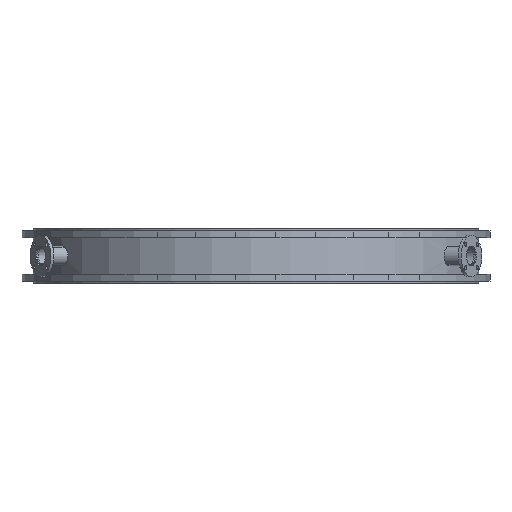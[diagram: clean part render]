
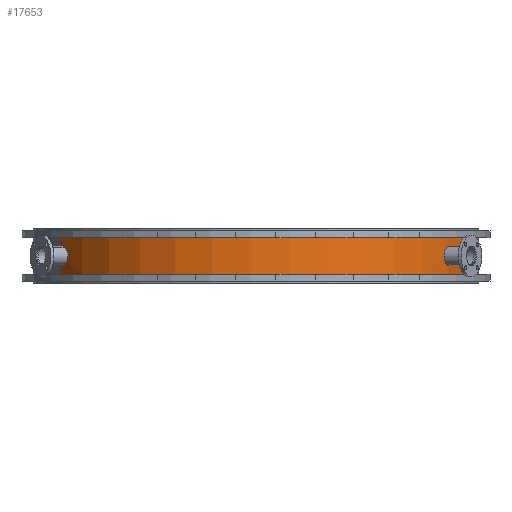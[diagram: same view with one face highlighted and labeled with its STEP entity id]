
A CAD part, left-side view. The second image highlights one B-rep face of the part: STEP entity #17653.
In plain terms, the highlighted cylindrical face has radius 1025 mm (diameter 2050 mm), a partial arc.
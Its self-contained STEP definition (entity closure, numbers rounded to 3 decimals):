
#161=CARTESIAN_POINT('Vertex',(491.411,-899.522,-85.)) ;
#163=CARTESIAN_POINT('Vertex',(-491.411,899.522,-85.)) ;
#166=CARTESIAN_POINT('Axis2P3D Location',(0.,0.,-85.)) ;
#2821=CARTESIAN_POINT('Axis2P3D Location',(0.,0.,0.)) ;
#17080=CARTESIAN_POINT('Axis2P3D Location',(0.,0.,85.)) ;
#17084=CARTESIAN_POINT('Vertex',(-491.411,899.522,85.)) ;
#17086=CARTESIAN_POINT('Vertex',(491.411,-899.522,85.)) ;
#17547=CARTESIAN_POINT('Line Origine',(-491.411,899.522,-20.)) ;
#17551=CARTESIAN_POINT('Vertex',(-491.411,899.522,-37.294)) ;
#17554=CARTESIAN_POINT('Line Origine',(491.411,-899.522,-20.)) ;
#17559=CARTESIAN_POINT('Line Origine',(-491.411,899.522,-20.)) ;
#17563=CARTESIAN_POINT('Vertex',(-491.411,899.522,37.294)) ;
#17567=CARTESIAN_POINT('Control Point',(-550.513,864.616,0.)) ;
#17568=CARTESIAN_POINT('Control Point',(-550.513,864.616,6.969)) ;
#17569=CARTESIAN_POINT('Control Point',(-549.36,865.35,13.938)) ;
#17570=CARTESIAN_POINT('Control Point',(-547.052,866.82,20.549)) ;
#17571=CARTESIAN_POINT('Control Point',(-542.03,869.981,29.398)) ;
#17572=CARTESIAN_POINT('Control Point',(-535.124,874.231,36.078)) ;
#17573=CARTESIAN_POINT('Control Point',(-532.636,875.75,38.033)) ;
#17574=CARTESIAN_POINT('Control Point',(-527.355,878.947,41.345)) ;
#17575=CARTESIAN_POINT('Control Point',(-521.598,882.371,43.396)) ;
#17576=CARTESIAN_POINT('Control Point',(-518.635,884.116,44.089)) ;
#17577=CARTESIAN_POINT('Control Point',(-511.186,888.46,44.958)) ;
#17578=CARTESIAN_POINT('Control Point',(-503.687,892.728,43.735)) ;
#17579=CARTESIAN_POINT('Control Point',(-499.325,895.173,42.263)) ;
#17580=CARTESIAN_POINT('Control Point',(-495.196,897.454,40.09)) ;
#17581=CARTESIAN_POINT('Control Point',(-491.411,899.522,37.294)) ;
#17582=CARTESIAN_POINT('Vertex',(-550.513,864.616,0.)) ;
#17586=CARTESIAN_POINT('Control Point',(-491.411,899.522,-37.294)) ;
#17587=CARTESIAN_POINT('Control Point',(-495.16,897.474,-40.063)) ;
#17588=CARTESIAN_POINT('Control Point',(-499.245,895.217,-42.221)) ;
#17589=CARTESIAN_POINT('Control Point',(-503.561,892.799,-43.693)) ;
#17590=CARTESIAN_POINT('Control Point',(-511.012,888.56,-44.944)) ;
#17591=CARTESIAN_POINT('Control Point',(-518.422,884.241,-44.128)) ;
#17592=CARTESIAN_POINT('Control Point',(-521.389,882.494,-43.454)) ;
#17593=CARTESIAN_POINT('Control Point',(-530.041,877.352,-40.434)) ;
#17594=CARTESIAN_POINT('Control Point',(-537.633,872.711,-34.57)) ;
#17595=CARTESIAN_POINT('Control Point',(-541.949,870.024,-29.53)) ;
#17596=CARTESIAN_POINT('Control Point',(-547.002,866.847,-20.642)) ;
#17597=CARTESIAN_POINT('Control Point',(-549.624,865.182,-10.552)) ;
#17598=CARTESIAN_POINT('Control Point',(-550.216,864.805,-7.065)) ;
#17599=CARTESIAN_POINT('Control Point',(-550.513,864.616,-3.533)) ;
#17600=CARTESIAN_POINT('Control Point',(-550.513,864.616,0.)) ;
#17612=CARTESIAN_POINT('Control Point',(-550.513,-864.616,0.)) ;
#17613=CARTESIAN_POINT('Control Point',(-550.513,-864.616,-6.969)) ;
#17614=CARTESIAN_POINT('Control Point',(-549.36,-865.35,-13.938)) ;
#17615=CARTESIAN_POINT('Control Point',(-547.052,-866.82,-20.549)) ;
#17616=CARTESIAN_POINT('Control Point',(-540.357,-871.035,-32.348)) ;
#17617=CARTESIAN_POINT('Control Point',(-530.31,-877.184,-40.29)) ;
#17618=CARTESIAN_POINT('Control Point',(-524.649,-880.591,-43.044)) ;
#17619=CARTESIAN_POINT('Control Point',(-512.641,-887.663,-45.817)) ;
#17620=CARTESIAN_POINT('Control Point',(-500.5,-894.538,-43.122)) ;
#17621=CARTESIAN_POINT('Control Point',(-494.707,-897.745,-40.406)) ;
#17622=CARTESIAN_POINT('Control Point',(-484.284,-903.414,-32.502)) ;
#17623=CARTESIAN_POINT('Control Point',(-477.215,-907.144,-20.692)) ;
#17624=CARTESIAN_POINT('Control Point',(-474.753,-908.425,-14.039)) ;
#17625=CARTESIAN_POINT('Control Point',(-473.523,-909.066,-7.019)) ;
#17626=CARTESIAN_POINT('Control Point',(-473.523,-909.066,0.)) ;
#17627=CARTESIAN_POINT('Vertex',(-550.513,-864.616,0.)) ;
#17629=CARTESIAN_POINT('Vertex',(-473.523,-909.066,0.)) ;
#17633=CARTESIAN_POINT('Control Point',(-473.523,-909.066,0.)) ;
#17634=CARTESIAN_POINT('Control Point',(-473.523,-909.066,6.969)) ;
#17635=CARTESIAN_POINT('Control Point',(-474.735,-908.434,13.938)) ;
#17636=CARTESIAN_POINT('Control Point',(-477.162,-907.171,20.549)) ;
#17637=CARTESIAN_POINT('Control Point',(-484.16,-903.48,32.348)) ;
#17638=CARTESIAN_POINT('Control Point',(-494.509,-897.854,40.29)) ;
#17639=CARTESIAN_POINT('Control Point',(-500.29,-894.655,43.044)) ;
#17640=CARTESIAN_POINT('Control Point',(-512.419,-887.792,45.817)) ;
#17641=CARTESIAN_POINT('Control Point',(-524.442,-880.715,43.122)) ;
#17642=CARTESIAN_POINT('Control Point',(-530.116,-877.302,40.406)) ;
#17643=CARTESIAN_POINT('Control Point',(-540.238,-871.109,32.502)) ;
#17644=CARTESIAN_POINT('Control Point',(-547.002,-866.852,20.692)) ;
#17645=CARTESIAN_POINT('Control Point',(-549.343,-865.361,14.039)) ;
#17646=CARTESIAN_POINT('Control Point',(-550.513,-864.616,7.019)) ;
#17647=CARTESIAN_POINT('Control Point',(-550.513,-864.616,0.)) ;
#167=DIRECTION('Axis2P3D Direction',(0.,0.,1.)) ;
#2822=DIRECTION('Axis2P3D Direction',(0.,0.,1.)) ;
#2823=DIRECTION('Axis2P3D XDirection',(0.479,-0.878,0.)) ;
#17081=DIRECTION('Axis2P3D Direction',(0.,0.,1.)) ;
#17548=DIRECTION('Vector Direction',(0.,0.,1.)) ;
#17555=DIRECTION('Vector Direction',(0.,0.,1.)) ;
#17560=DIRECTION('Vector Direction',(0.,0.,1.)) ;
#168=AXIS2_PLACEMENT_3D('Circle Axis2P3D',#166,#167,$) ;
#2824=AXIS2_PLACEMENT_3D('Cylinder Axis2P3D',#2821,#2822,#2823) ;
#17082=AXIS2_PLACEMENT_3D('Circle Axis2P3D',#17080,#17081,$) ;
#17603=ORIENTED_EDGE('',*,*,#17553,.T.) ;
#17604=ORIENTED_EDGE('',*,*,#170,.T.) ;
#17605=ORIENTED_EDGE('',*,*,#17558,.F.) ;
#17606=ORIENTED_EDGE('',*,*,#17088,.F.) ;
#17607=ORIENTED_EDGE('',*,*,#17565,.T.) ;
#17608=ORIENTED_EDGE('',*,*,#17584,.F.) ;
#17609=ORIENTED_EDGE('',*,*,#17601,.F.) ;
#17650=ORIENTED_EDGE('',*,*,#17631,.F.) ;
#17651=ORIENTED_EDGE('',*,*,#17648,.F.) ;
#17652=FACE_BOUND('',#17649,.T.) ;
#17549=VECTOR('Line Direction',#17548,1.) ;
#17556=VECTOR('Line Direction',#17555,1.) ;
#17561=VECTOR('Line Direction',#17560,1.) ;
#17653=ADVANCED_FACE('corpo principale',(#17610,#17652),#2825,.T.) ;
#17566=B_SPLINE_CURVE_WITH_KNOTS('',5,(#17567,#17568,#17569,#17570,#17571,#17572,#17573,#17574,#17575,#17576,#17577,#17578,#17579,#17580,#17581),.UNSPECIFIED.,.F.,.U.,(6,3,3,3,6),(0.,49.279,73.935,98.579,134.924),.UNSPECIFIED.) ;
#17585=B_SPLINE_CURVE_WITH_KNOTS('',5,(#17586,#17587,#17588,#17589,#17590,#17591,#17592,#17593,#17594,#17595,#17596,#17597,#17598,#17599,#17600),.UNSPECIFIED.,.F.,.U.,(6,3,3,3,6),(62.584,98.579,123.22,172.528,197.508),.UNSPECIFIED.) ;
#17611=B_SPLINE_CURVE_WITH_KNOTS('',5,(#17612,#17613,#17614,#17615,#17616,#17617,#17618,#17619,#17620,#17621,#17622,#17623,#17624,#17625,#17626),.UNSPECIFIED.,.F.,.U.,(6,3,3,3,6),(0.,49.279,98.579,147.875,197.508),.UNSPECIFIED.) ;
#17632=B_SPLINE_CURVE_WITH_KNOTS('',5,(#17633,#17634,#17635,#17636,#17637,#17638,#17639,#17640,#17641,#17642,#17643,#17644,#17645,#17646,#17647),.UNSPECIFIED.,.F.,.U.,(6,3,3,3,6),(0.,49.279,98.579,147.875,197.508),.UNSPECIFIED.) ;
#169=CIRCLE('generated circle',#168,1025.) ;
#17083=CIRCLE('generated circle',#17082,1025.) ;
#2825=CYLINDRICAL_SURFACE('generated cylinder',#2824,1025.) ;
#170=EDGE_CURVE('',#164,#162,#169,.T.) ;
#17088=EDGE_CURVE('',#17085,#17087,#17083,.T.) ;
#17553=EDGE_CURVE('',#17552,#164,#17550,.F.) ;
#17558=EDGE_CURVE('',#17087,#162,#17557,.F.) ;
#17565=EDGE_CURVE('',#17085,#17564,#17562,.F.) ;
#17584=EDGE_CURVE('',#17583,#17564,#17566,.T.) ;
#17601=EDGE_CURVE('',#17552,#17583,#17585,.T.) ;
#17631=EDGE_CURVE('',#17628,#17630,#17611,.T.) ;
#17648=EDGE_CURVE('',#17630,#17628,#17632,.T.) ;
#17602=EDGE_LOOP('',(#17603,#17604,#17605,#17606,#17607,#17608,#17609)) ;
#17649=EDGE_LOOP('',(#17650,#17651)) ;
#17610=FACE_OUTER_BOUND('',#17602,.T.) ;
#17550=LINE('Line',#17547,#17549) ;
#17557=LINE('Line',#17554,#17556) ;
#17562=LINE('Line',#17559,#17561) ;
#162=VERTEX_POINT('',#161) ;
#164=VERTEX_POINT('',#163) ;
#17085=VERTEX_POINT('',#17084) ;
#17087=VERTEX_POINT('',#17086) ;
#17552=VERTEX_POINT('',#17551) ;
#17564=VERTEX_POINT('',#17563) ;
#17583=VERTEX_POINT('',#17582) ;
#17628=VERTEX_POINT('',#17627) ;
#17630=VERTEX_POINT('',#17629) ;
